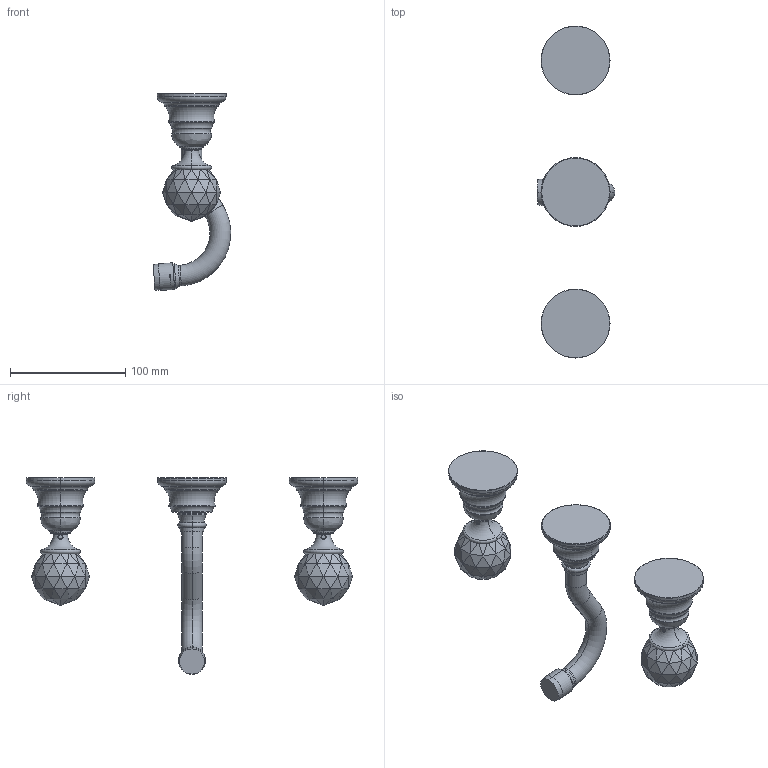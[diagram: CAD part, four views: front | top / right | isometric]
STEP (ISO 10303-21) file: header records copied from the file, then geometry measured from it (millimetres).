
FILE_DESCRIPTION((''),'2;1');
FILE_NAME('F5081_5C_FILE_3D','2013-07-18T',('ivanv'),(''),'PRO/ENGINEER BY PARAMETRIC TECHNOLOGY CORPORATION, 2012130','PRO/ENGINEER BY PARAMETRIC TECHNOLOGY CORPORATION, 2012130','');
FILE_SCHEMA(('CONFIG_CONTROL_DESIGN'));
Length unit declared in the file: millimetre
Products named in the file (1): F5081_5C_FILE_3D
Bounding box: 67.16 x 287.7 x 170.71 mm (x, y, z)
Volume: 325078.9 mm3; surface area: 67553.6 mm2
Topology: 5 solids, 7 shells, 426 faces, 756 edges, 350 vertices
Faces by surface type: plane 260, torus 90, cylinder 44, cone 26, bspline 6
Entity records: 10144 total; most frequent: CARTESIAN_POINT 1953, DIRECTION 1880, ORIENTED_EDGE 1512, EDGE_CURVE 756, AXIS2_PLACEMENT_3D 715, VECTOR 450, LINE 450, EDGE_LOOP 434
